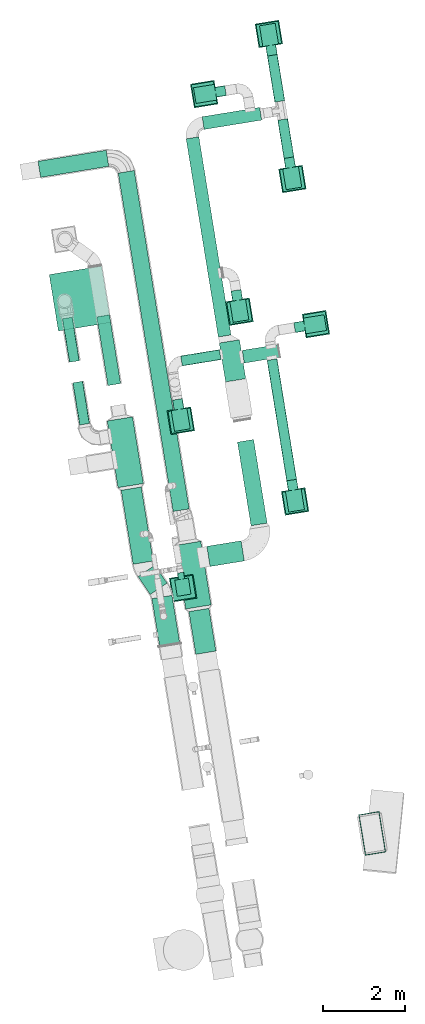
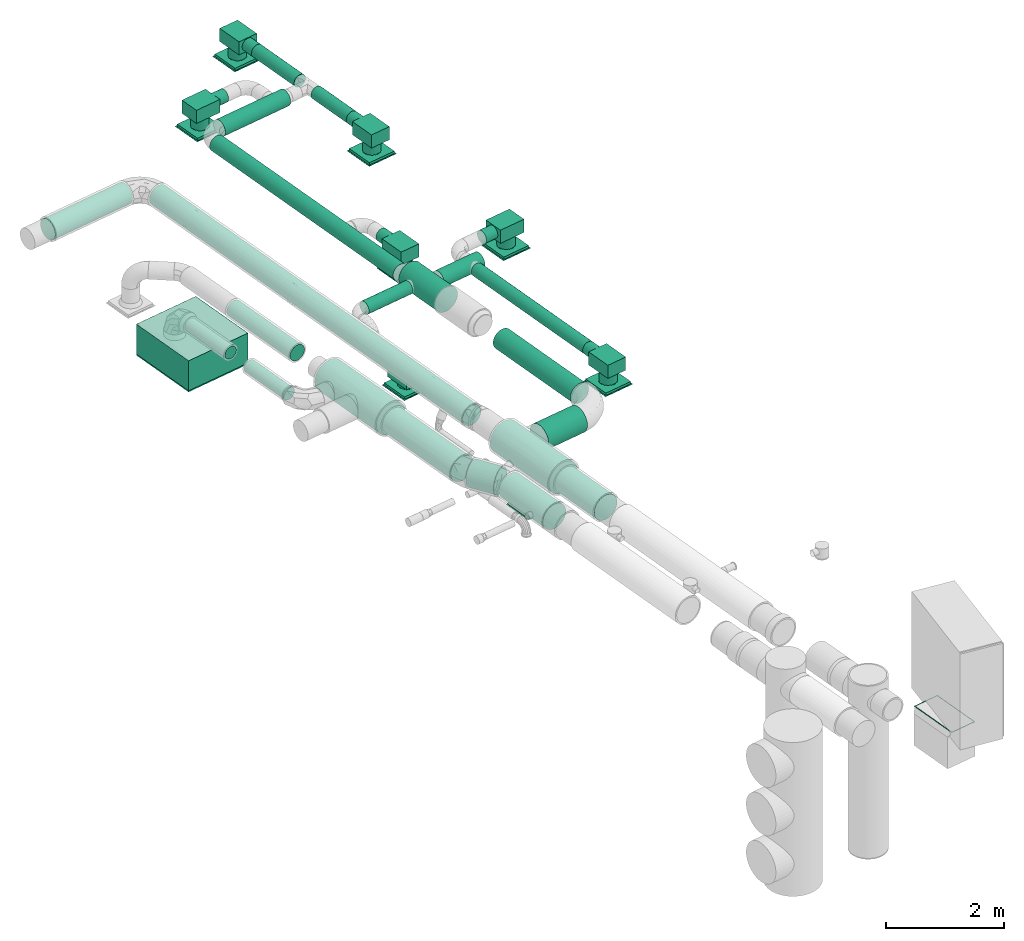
# One storey, part 13 of 39: 22 flow segments, 10 flow terminals.
"""IFC2X3 building model written with IfcOpenShell, lengths in millimetres."""

from ifc_helpers import new_model, entity, si_unit, converted_unit, derived_unit, direction, frame, frame_2d, origin, origin_with_axes, origin_2d_with_axis, place, context, subcontext, project, spatial, rectangle, circle, extrude, source, transform, mapped, material, type_object, element, save


model = new_model("IFC2X3")

# Units and contexts
plan_context = context("Plan", 3, precision=1e-05, world=origin_with_axes())
model_context = context("Model", 3, precision=0.01, world=origin(), true_north=direction((6.12323399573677e-17, 1.0)))
body_context = subcontext(model_context, "Body", "Model", "MODEL_VIEW")
ifc_project = project(units=[converted_unit("PLANEANGLEUNIT", "DEGREE", entity("IfcPositiveLengthMeasure", 0.0174532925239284), si_unit("PLANEANGLEUNIT", "RADIAN"), dimensions=[0, 0, 0, 0, 0, 0, 0]), si_unit("AREAUNIT", "SQUARE_METRE"), si_unit("LENGTHUNIT", "METRE", prefix="MILLI"), si_unit("MASSUNIT", "GRAM", prefix="KILO"), si_unit("POWERUNIT", "WATT"), si_unit("PRESSUREUNIT", "PASCAL", prefix="KILO"), si_unit("FORCEUNIT", "NEWTON", prefix="KILO"), si_unit("ELECTRICVOLTAGEUNIT", "VOLT"), si_unit("ELECTRICCURRENTUNIT", "AMPERE"), si_unit("THERMODYNAMICTEMPERATUREUNIT", "DEGREE_CELSIUS"), si_unit("TIMEUNIT", "SECOND"), si_unit("VOLUMEUNIT", "CUBIC_METRE"), derived_unit("LINEARVELOCITYUNIT", [(si_unit("LENGTHUNIT", "METRE"), 1), (si_unit("TIMEUNIT", "SECOND"), -1)]), derived_unit("VOLUMETRICFLOWRATEUNIT", [(si_unit("VOLUMEUNIT", "CUBIC_METRE"), 1), (si_unit("TIMEUNIT", "SECOND"), -1)]), derived_unit("THERMALTRANSMITTANCEUNIT", [(si_unit("POWERUNIT", "WATT"), 1), (si_unit("THERMODYNAMICTEMPERATUREUNIT", "KELVIN"), -1), (si_unit("AREAUNIT", "SQUARE_METRE"), -1)]), derived_unit("SOUNDPRESSUREUNIT", [(si_unit("PRESSUREUNIT", "PASCAL"), 1)])], contexts=[model_context, plan_context])

# Site, building, storey
site_placement = place(None, frame((-0.00071070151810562, 0.00438415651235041, 0.0), z_axis=(0.0, 0.0, 1.0), x_axis=(-0.160236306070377, 0.987078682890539, 0.0)))
site = spatial("IfcSite", under=ifc_project, at=site_placement, Name="Default", CompositionType="ELEMENT")
building_placement = place(site_placement, origin_with_axes())
building = spatial("IfcBuilding", under=site, at=building_placement, CompositionType="ELEMENT")
storey_placement = place(building_placement, frame((0.0, 0.0, 58999.9999999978), z_axis=(0.0, 0.0, 1.0), x_axis=(1.0, 0.0, 0.0)))
storey = spatial("IfcBuildingStorey", under=building, at=storey_placement, Name="Nivå F", CompositionType="ELEMENT", Elevation=58999.9999999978)

# Flow terminals
ifc_material = material(Name="<Unnamed>")
air_terminal_type_1 = type_object("IfcAirTerminalType", Name="TILLUFTSVENTIL -  - ST072T:TILLUFTSVENTIL - ALE-1000-500 - ST072T", PredefinedType="NOTDEFINED", material=ifc_material)
shared_shape_1 = source(origin(), body_context, "Body", "SweptSolid", [
    extrude(rectangle(XDim=0.200000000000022, YDim=4.99999999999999, at=frame_2d((-3.38409855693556e-14, 0.0), x_axis=(1.0, 0.0))), frame((2.50000000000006, 506.0, -256.0), z_axis=(0.0, 0.0, 1.0), x_axis=(0.0, 1.0, 0.0)), (0.0, 0.0, 1.0), 512.0),
    extrude(rectangle(XDim=4.99999999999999, YDim=1012.0, at=frame_2d((4.44089209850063e-16, 0.0), x_axis=(1.0, 0.0))), frame((2.49999999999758, 0.0, 255.9)), (0.0, 0.0, 1.0), 0.199999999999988),
    extrude(rectangle(XDim=0.200000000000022, YDim=4.99999999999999, at=frame_2d((-3.38409855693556e-14, 0.0), x_axis=(1.0, 0.0))), frame((2.49999999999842, -506.0, -256.0), z_axis=(0.0, 0.0, 1.0), x_axis=(0.0, 1.0, 0.0)), (0.0, 0.0, 1.0), 512.0),
    extrude(rectangle(XDim=4.99999999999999, YDim=1012.0, at=frame_2d((-2.22044604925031e-16, 0.0), x_axis=(1.0, 0.0))), frame((2.49999999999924, 0.0, -256.1)), (0.0, 0.0, 1.0), 0.199999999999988),
    extrude(rectangle(XDim=0.2, YDim=18.0, at=frame_2d((5.27355936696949e-16, 0.0), x_axis=(1.0, 0.0))), frame((5.0, 497.0, -256.0)), (0.0, 0.0, 1.0), 18.0),
    extrude(rectangle(XDim=0.2, YDim=18.0, at=frame_2d((5.27355936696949e-16, 0.0), x_axis=(1.0, 0.0))), frame((5.0, 497.0, -238.0)), (0.0, 0.0, 1.0), 476.0),
    extrude(rectangle(XDim=0.2, YDim=18.0, at=frame_2d((5.27355936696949e-16, 0.0), x_axis=(1.0, 0.0))), frame((5.0, 497.0, 238.0)), (0.0, 0.0, 1.0), 18.0),
    extrude(rectangle(XDim=0.2, YDim=975.999999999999, at=frame_2d((5.27355936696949e-16, 0.0), x_axis=(1.0, 0.0))), frame((5.0, 0.0, 238.0)), (0.0, 0.0, 1.0), 18.0),
    extrude(rectangle(XDim=0.2, YDim=18.0, at=frame_2d((5.27355936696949e-16, 0.0), x_axis=(1.0, 0.0))), frame((5.0, -497.0, 238.0)), (0.0, 0.0, 1.0), 18.0),
    extrude(rectangle(XDim=0.2, YDim=18.0, at=frame_2d((5.27355936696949e-16, 0.0), x_axis=(1.0, 0.0))), frame((5.0, -497.0, -238.0)), (0.0, 0.0, 1.0), 476.0),
    extrude(rectangle(XDim=0.2, YDim=18.0, at=frame_2d((5.27355936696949e-16, 0.0), x_axis=(1.0, 0.0))), frame((5.0, -497.0, -256.0)), (0.0, 0.0, 1.0), 18.0),
    extrude(rectangle(XDim=0.2, YDim=975.999999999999, at=frame_2d((5.27355936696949e-16, 0.0), x_axis=(1.0, 0.0))), frame((5.0, 0.0, -256.0)), (0.0, 0.0, 1.0), 18.0),
])
flow_terminal_1_placement = place(storey_placement, frame((765967.619644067, -506652.480498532, 108.078480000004), z_axis=(0.0, 1.0, 0.0), x_axis=(0.0, 0.0, 1.0)))
element("IfcFlowTerminal", 1, at=flow_terminal_1_placement, inside=storey, type_object=air_terminal_type_1, material=ifc_material, Name="TILLUFTSVENTIL -  - ST072T:TILLUFTSVENTIL - ALE-1000-500 - ST072T", ObjectType="TILLUFTSVENTIL -  - ST072T:TILLUFTSVENTIL - ALE-1000-500 - ST072T", context=body_context, shape_type="MappedRepresentation", body=[
    mapped(shared_shape_1, transform((0.0, 0.0, 0.0), scale=1.0)),
])
air_terminal_type_2 = type_object("IfcAirTerminalType", Name="TILLUFTSVENTIL - 2 - ST003T:TILLUFTSVENTIL - Orion-OPUS-R-160+Luna-160-160 - ST003T", PredefinedType="NOTDEFINED", material=ifc_material)
shared_shape_2 = source(origin(), body_context, "Body", "SweptSolid", [
    extrude(circle(Radius=85.0, at=frame_2d((-1.18447497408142e-13, 0.0), x_axis=(1.0, 0.0))), frame((0.0, 0.0, 47.0), z_axis=(0.0, 0.0, 1.0), x_axis=(0.0, 1.0, 0.0)), (0.0, 0.0, 1.0), 4.0),
    extrude(rectangle(XDim=340.0, YDim=400.0, at=origin_2d_with_axis()), frame((-25.0, 0.0, 126.0), z_axis=(0.0, 0.0, 1.0), x_axis=(0.0, 1.0, 0.0)), (0.0, 0.0, 1.0), 182.0),
    extrude(circle(Radius=81.0, at=frame_2d((1.02953858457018e-13, 0.0), x_axis=(1.0, 0.0))), frame((0.0, 0.0, 51.0), z_axis=(0.0, 0.0, 1.0), x_axis=(0.0, 1.0, 0.0)), (0.0, 0.0, 1.0), 75.0),
    extrude(rectangle(XDim=595.0, YDim=595.0, at=origin_2d_with_axis()), frame((0.0, 0.0, -6.0), z_axis=(0.0, 0.0, 1.0), x_axis=(0.0, 1.0, 0.0)), (0.0, 0.0, 1.0), 6.0),
    extrude(rectangle(XDim=545.0, YDim=545.0, at=origin_2d_with_axis()), frame((0.0, 0.0, 0.0), z_axis=(0.0, 0.0, 1.0), x_axis=(0.0, 1.0, 0.0)), (0.0, 0.0, 1.0), 47.0),
    extrude(circle(Radius=80.0, at=frame_2d((-9.39237515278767e-31, -1.35358391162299e-13), x_axis=(1.0, 0.0))), frame((-385.0, 0.0, 217.0), z_axis=(1.0, 0.0, 0.0), x_axis=(0.0, -1.0, 0.0)), (0.0, 0.0, 1.0), 160.0),
])
flow_terminal_2_placement = place(storey_placement, frame((772638.619644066, -503041.01455526, 2400.0), z_axis=(0.0, 0.0, 1.0), x_axis=(-1.0, 0.0, 0.0)))
element("IfcFlowTerminal", 2, at=flow_terminal_2_placement, inside=storey, type_object=air_terminal_type_2, material=ifc_material, Name="TILLUFTSVENTIL - 2 - ST003T:TILLUFTSVENTIL - Orion-OPUS-R-160+Luna-160-160 - ST003T", ObjectType="TILLUFTSVENTIL - 2 - ST003T:TILLUFTSVENTIL - Orion-OPUS-R-160+Luna-160-160 - ST003T", context=body_context, shape_type="MappedRepresentation", body=[
    mapped(shared_shape_2, transform((0.0, 0.0, 0.0), scale=1.0)),
])
air_terminal_type_3 = type_object("IfcAirTerminalType", Name="TILLUFTSVENTIL - 2 - ST003T:TILLUFTSVENTIL - Orion-OPUS-R-315+Luna-250-315 - ST003T", PredefinedType="NOTDEFINED", material=ifc_material)
shared_shape_3 = source(origin(), body_context, "Body", "SweptSolid", [
    extrude(circle(Radius=162.5, at=frame_2d((8.03759717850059e-13, 0.0), x_axis=(1.0, 0.0))), frame((0.0, 0.0, 47.0), z_axis=(0.0, 0.0, 1.0), x_axis=(0.0, -1.0, 0.0)), (0.0, 0.0, 1.0), 4.0),
    extrude(rectangle(XDim=515.0, YDim=390.0, at=origin_2d_with_axis()), frame((-24.5, 0.0, 137.0), z_axis=(0.0, 0.0, 1.0), x_axis=(-1.0, 0.0, 0.0)), (0.0, 0.0, 1.0), 272.0),
    extrude(circle(Radius=158.5, at=frame_2d((2.91257884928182e-13, 0.0), x_axis=(1.0, 0.0))), frame((0.0, 0.0, 51.0), z_axis=(0.0, 0.0, 1.0), x_axis=(0.0, -1.0, 0.0)), (0.0, 0.0, 1.0), 86.0),
    extrude(rectangle(XDim=595.0, YDim=595.0, at=origin_2d_with_axis()), frame((0.0, 0.0, -6.0), z_axis=(0.0, 0.0, 1.0), x_axis=(-1.0, 0.0, 0.0)), (0.0, 0.0, 1.0), 6.0),
    extrude(rectangle(XDim=545.0, YDim=545.0, at=origin_2d_with_axis()), frame((0.0, 0.0, 0.0), z_axis=(0.0, 0.0, 1.0), x_axis=(-1.0, 0.0, 0.0)), (0.0, 0.0, 1.0), 47.0),
    extrude(circle(Radius=125.0, at=frame_2d((-1.28425771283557e-16, 3.72235575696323e-13), x_axis=(1.0, 0.0))), frame((-530.0, 0.0, 273.0), z_axis=(1.0, 0.0, 0.0), x_axis=(0.0, 1.0, 0.0)), (0.0, 0.0, 1.0), 248.0),
])
flow_terminal_3_placement = place(storey_placement, frame((776695.119644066, -503645.980498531, 2400.0), z_axis=(0.0, 0.0, 1.0), x_axis=(-1.0, 0.0, 0.0)))
element("IfcFlowTerminal", 3, at=flow_terminal_3_placement, inside=storey, type_object=air_terminal_type_3, material=ifc_material, Name="TILLUFTSVENTIL - 2 - ST003T:TILLUFTSVENTIL - Orion-OPUS-R-315+Luna-250-315 - ST003T", ObjectType="TILLUFTSVENTIL - 2 - ST003T:TILLUFTSVENTIL - Orion-OPUS-R-315+Luna-250-315 - ST003T", context=body_context, shape_type="MappedRepresentation", body=[
    mapped(shared_shape_3, transform((0.0, 0.0, 0.0), scale=1.0)),
])
air_terminal_type_4 = type_object("IfcAirTerminalType", Name="TILLUFTSVENTIL - 2 - ST003T:TILLUFTSVENTIL - Orion-OPUS-R-315+Luna-250-315 - ST003T", PredefinedType="NOTDEFINED", material=ifc_material)
shared_shape_4 = source(origin(), body_context, "Body", "SweptSolid", [
    extrude(circle(Radius=162.5, at=frame_2d((-2.26443745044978e-13, 0.0), x_axis=(1.0, 0.0))), frame((0.0, 0.0, 47.0), z_axis=(0.0, 0.0, 1.0), x_axis=(0.0, 1.0, 0.0)), (0.0, 0.0, 1.0), 4.0),
    extrude(rectangle(XDim=390.0, YDim=515.0, at=origin_2d_with_axis()), frame((-24.5, 0.0, 294.0), z_axis=(0.0, 0.0, 1.0), x_axis=(0.0, 1.0, 0.0)), (0.0, 0.0, 1.0), 272.0),
    extrude(circle(Radius=158.5, at=frame_2d((2.01459093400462e-13, 0.0), x_axis=(1.0, 0.0))), frame((0.0, 0.0, 51.0), z_axis=(0.0, 0.0, 1.0), x_axis=(0.0, 1.0, 0.0)), (0.0, 0.0, 1.0), 243.0),
    extrude(rectangle(XDim=595.0, YDim=595.0, at=origin_2d_with_axis()), frame((0.0, 0.0, -6.0), z_axis=(0.0, 0.0, 1.0), x_axis=(0.0, 1.0, 0.0)), (0.0, 0.0, 1.0), 6.0),
    extrude(rectangle(XDim=545.0, YDim=545.0, at=origin_2d_with_axis()), frame((0.0, 0.0, 0.0), z_axis=(0.0, 0.0, 1.0), x_axis=(0.0, 1.0, 0.0)), (0.0, 0.0, 1.0), 47.0),
    extrude(circle(Radius=125.0, at=frame_2d((-2.25417003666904e-29, -3.38395977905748e-13), x_axis=(1.0, 0.0))), frame((-530.0, 0.0, 430.0), z_axis=(1.0, 0.0, 0.0), x_axis=(0.0, -1.0, 0.0)), (0.0, 0.0, 1.0), 248.0),
])
for number, where, z_axis, x_axis in (
    (4, (774295.119644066, -506090.980498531, 2700.0), (0.0, 0.0, 1.0), (-1.0, 0.0, 0.0)),
    (5, (782100.119644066, -507290.980498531, 2700.0), (0.0, 0.0, 1.0), (-1.0, 0.0, 0.0)),
    (6, (785700.119644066, -507290.980498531, 2700.0), (0.0, 0.0, 1.0), (1.0, 0.0, 0.0)),
):
    element("IfcFlowTerminal", number, at=place(storey_placement, frame(where, z_axis=z_axis, x_axis=x_axis)), inside=storey, type_object=air_terminal_type_4, material=ifc_material, Name="TILLUFTSVENTIL - 2 - ST003T:TILLUFTSVENTIL - Orion-OPUS-R-315+Luna-250-315 - ST003T", ObjectType="TILLUFTSVENTIL - 2 - ST003T:TILLUFTSVENTIL - Orion-OPUS-R-315+Luna-250-315 - ST003T", context=body_context, shape_type="MappedRepresentation", body=[
        mapped(shared_shape_4, transform((0.0, 0.0, 0.0), scale=1.0)),
    ])
air_terminal_type_5 = type_object("IfcAirTerminalType", Name="TILLUFTSVENTIL - 2 - ST003T:TILLUFTSVENTIL - Orion-OPUS-R-315+Luna-250-315 - ST003T", PredefinedType="NOTDEFINED", material=ifc_material)
shared_shape_5 = source(origin(), body_context, "Body", "SweptSolid", [
    extrude(circle(Radius=162.5, at=frame_2d((8.03759717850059e-13, 0.0), x_axis=(1.0, 0.0))), frame((0.0, 0.0, 47.0), z_axis=(0.0, 0.0, 1.0), x_axis=(0.0, -1.0, 0.0)), (0.0, 0.0, 1.0), 4.0),
    extrude(rectangle(XDim=515.0, YDim=390.0, at=origin_2d_with_axis()), frame((-24.5, 0.0, 294.0), z_axis=(0.0, 0.0, 1.0), x_axis=(-1.0, 0.0, 0.0)), (0.0, 0.0, 1.0), 272.0),
    extrude(circle(Radius=158.5, at=frame_2d((2.91257884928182e-13, 0.0), x_axis=(1.0, 0.0))), frame((0.0, 0.0, 51.0), z_axis=(0.0, 0.0, 1.0), x_axis=(0.0, -1.0, 0.0)), (0.0, 0.0, 1.0), 243.0),
    extrude(rectangle(XDim=595.0, YDim=595.0, at=origin_2d_with_axis()), frame((0.0, 0.0, -6.0), z_axis=(0.0, 0.0, 1.0), x_axis=(-1.0, 0.0, 0.0)), (0.0, 0.0, 1.0), 6.0),
    extrude(rectangle(XDim=545.0, YDim=545.0, at=origin_2d_with_axis()), frame((0.0, 0.0, 0.0), z_axis=(0.0, 0.0, 1.0), x_axis=(-1.0, 0.0, 0.0)), (0.0, 0.0, 1.0), 47.0),
    extrude(circle(Radius=125.0, at=frame_2d((5.91561833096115e-15, 3.38395977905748e-13), x_axis=(1.0, 0.0))), frame((-530.0, 0.0, 430.0), z_axis=(1.0, 0.0, 0.0), x_axis=(0.0, 1.0, 0.0)), (0.0, 0.0, 1.0), 248.0),
])
for number, where, z_axis, x_axis in (
    (7, (779100.119644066, -505490.980498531, 2700.0), (0.0, 0.0, 1.0), (-1.0, 0.0, 0.0)),
    (8, (784500.119644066, -505490.980498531, 2700.0), (0.0, 0.0, 1.0), (0.0, 1.0, 0.0)),
    (9, (778500.119644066, -507290.980498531, 2700.0), (0.0, 0.0, 1.0), (0.0, -1.0, 0.0)),
):
    element("IfcFlowTerminal", number, at=place(storey_placement, frame(where, z_axis=z_axis, x_axis=x_axis)), inside=storey, type_object=air_terminal_type_5, material=ifc_material, Name="TILLUFTSVENTIL - 2 - ST003T:TILLUFTSVENTIL - Orion-OPUS-R-315+Luna-250-315 - ST003T", ObjectType="TILLUFTSVENTIL - 2 - ST003T:TILLUFTSVENTIL - Orion-OPUS-R-315+Luna-250-315 - ST003T", context=body_context, shape_type="MappedRepresentation", body=[
        mapped(shared_shape_5, transform((0.0, 0.0, 0.0), scale=1.0)),
    ])
air_terminal_type_6 = type_object("IfcAirTerminalType", Name="KJØKKENHETTE - FA:KJØKKENHETTE - Kjøkkenhette 1400x1300 - FA003T", PredefinedType="NOTDEFINED", material=ifc_material)
shared_shape_6 = source(origin(), body_context, "Body", "SweptSolid", [
    extrude(rectangle(XDim=10.0, YDim=10.0, at=frame_2d((8.88178419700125e-16, 0.0), x_axis=(1.0, 0.0))), frame((0.0, 0.0, 0.0), z_axis=(0.0, 0.0, 1.0), x_axis=(-1.0, 0.0, 0.0)), (0.0, 0.0, 1.0), 25.0),
    extrude(rectangle(XDim=1400.0, YDim=1300.0, at=origin_2d_with_axis()), frame((0.0, 0.0, 0.0), z_axis=(0.0, 0.0, 1.0), x_axis=(0.0, 1.0, 0.0)), (0.0, 0.0, 1.0), 25.0),
])
flow_terminal_4_placement = place(storey_placement, frame((780044.619644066, -501687.480498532, 2000.0), z_axis=(0.0, 0.0, 1.0), x_axis=(0.0, -1.0, 0.0)))
element("IfcFlowTerminal", 10, at=flow_terminal_4_placement, inside=storey, type_object=air_terminal_type_6, material=ifc_material, Name="KJØKKENHETTE - FA:KJØKKENHETTE - Kjøkkenhette 1400x1300 - FA003T", ObjectType="KJØKKENHETTE - FA:KJØKKENHETTE - Kjøkkenhette 1400x1300 - FA003T", context=body_context, shape_type="MappedRepresentation", body=[
    mapped(shared_shape_6, transform((0.0, 0.0, 0.0), scale=1.0)),
])

# Flow segments
duct_segment_type_1 = type_object("IfcDuctSegmentType", Name="Round Duct:KK001T - Spiro kanaler, Forsinket stål", PredefinedType="NOTDEFINED")
flow_segment_1_placement = place(storey_placement, origin_with_axes())
element("IfcFlowSegment", 11, at=flow_segment_1_placement, inside=storey, type_object=duct_segment_type_1, Name="Round Duct:KK001T - Spiro kanaler, Forsinket stål", ObjectType="Round Duct:KK001T - Spiro kanaler, Forsinket stål", context=body_context, shape_type="SweptSolid", body=[
    extrude(circle(Radius=315.0, at=origin_2d_with_axis()), frame((772124.369644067, -503340.008615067, 3129.99954147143), z_axis=(1.0, 0.0, 0.0), x_axis=(0.0, -1.0, 0.0)), (0.0, 0.0, 1.0), 1579.24083049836),
])
flow_segment_2_placement = place(storey_placement, origin_with_axes())
element("IfcFlowSegment", 12, at=flow_segment_2_placement, inside=storey, type_object=duct_segment_type_1, Name="Round Duct:KK001T - Spiro kanaler, Forsinket stål", ObjectType="Round Duct:KK001T - Spiro kanaler, Forsinket stål", context=body_context, shape_type="SweptSolid", body=[
    extrude(circle(Radius=250.0, at=origin_2d_with_axis()), frame((771329.369644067, -502496.834705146, 3130.0), z_axis=(1.0, 0.0, 0.0), x_axis=(0.0, -1.0, 0.0)), (0.0, 0.0, 1.0), 1179.50227023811),
])
flow_segment_3_placement = place(storey_placement, origin_with_axes())
element("IfcFlowSegment", 13, at=flow_segment_3_placement, inside=storey, type_object=duct_segment_type_1, Name="Round Duct:KK001T - Spiro kanaler, Forsinket stål", ObjectType="Round Duct:KK001T - Spiro kanaler, Forsinket stål", context=body_context, shape_type="SweptSolid", body=[
    extrude(circle(Radius=250.0, at=origin_2d_with_axis()), frame((772720.181045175, -502449.988598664, 3130.0), z_axis=(0.906307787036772, 0.422618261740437, 0.0), x_axis=(0.422618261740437, -0.906307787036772, 0.0)), (0.0, 0.0, 1.0), 530.757440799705),
])
flow_segment_4_placement = place(storey_placement, origin_with_axes())
element("IfcFlowSegment", 14, at=flow_segment_4_placement, inside=storey, type_object=duct_segment_type_1, Name="Round Duct:KK001T - Spiro kanaler, Forsinket stål", ObjectType="Round Duct:KK001T - Spiro kanaler, Forsinket stål", context=body_context, shape_type="SweptSolid", body=[
    extrude(circle(Radius=315.0, at=origin_2d_with_axis()), frame((775323.610474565, -502178.834705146, 3130.03415297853), z_axis=(1.0, 0.0, 0.0), x_axis=(0.0, -1.0, 0.0)), (0.0, 0.0, 1.0), 1654.99999999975),
])
flow_segment_5_placement = place(storey_placement, origin_with_axes())
element("IfcFlowSegment", 15, at=flow_segment_5_placement, inside=storey, type_object=duct_segment_type_1, Name="Round Duct:KK001T - Spiro kanaler, Forsinket stål", ObjectType="Round Duct:KK001T - Spiro kanaler, Forsinket stål", context=body_context, shape_type="SweptSolid", body=[
    extrude(circle(Radius=157.5, at=origin_2d_with_axis()), frame((777830.476763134, -502178.834705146, 3130.03415297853), z_axis=(1.0, 0.0, 0.0), x_axis=(0.0, -1.0, 0.0)), (0.0, 0.0, 1.0), 1701.86628856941),
])
flow_segment_6_placement = place(storey_placement, origin_with_axes())
element("IfcFlowSegment", 16, at=flow_segment_6_placement, inside=storey, type_object=duct_segment_type_1, Name="Round Duct:KK001T - Spiro kanaler, Forsinket stål", ObjectType="Round Duct:KK001T - Spiro kanaler, Forsinket stål", context=body_context, shape_type="SweptSolid", body=[
    extrude(circle(Radius=125.0, at=origin_2d_with_axis()), frame((776987.222116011, -501304.709617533, 3130.0), z_axis=(1.0, 0.0, 0.0), x_axis=(0.0, -1.0, 0.0)), (0.0, 0.0, 1.0), 1047.89752805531),
])
flow_segment_7_placement = place(storey_placement, origin_with_axes())
element("IfcFlowSegment", 17, at=flow_segment_7_placement, inside=storey, type_object=duct_segment_type_1, Name="Round Duct:KK001T - Spiro kanaler, Forsinket stål", ObjectType="Round Duct:KK001T - Spiro kanaler, Forsinket stål", context=body_context, shape_type="SweptSolid", body=[
    extrude(circle(Radius=250.0, at=origin_2d_with_axis()), frame((773412.51977767, -502178.834705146, 3130.03415297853), z_axis=(1.0, 0.0, 0.0), x_axis=(0.0, -1.0, 0.0)), (0.0, 0.0, 1.0), 1836.09069689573),
])
flow_segment_8_placement = place(storey_placement, origin_with_axes())
element("IfcFlowSegment", 18, at=flow_segment_8_placement, inside=storey, type_object=duct_segment_type_1, Name="Round Duct:KK001T - Spiro kanaler, Forsinket stål", ObjectType="Round Duct:KK001T - Spiro kanaler, Forsinket stål", context=body_context, shape_type="SweptSolid", body=[
    extrude(circle(Radius=250.0, at=origin_2d_with_axis()), frame((770989.369644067, -503340.008615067, 3129.99954147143), z_axis=(1.0, 0.0, 0.0), x_axis=(0.0, -1.0, 0.0)), (0.0, 0.0, 1.0), 1059.99999999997),
])
flow_segment_9_placement = place(storey_placement, origin_with_axes())
element("IfcFlowSegment", 19, at=flow_segment_9_placement, inside=storey, type_object=duct_segment_type_1, Name="Round Duct:KK001T - Spiro kanaler, Forsinket stål", ObjectType="Round Duct:KK001T - Spiro kanaler, Forsinket stål", context=body_context, shape_type="SweptSolid", body=[
    extrude(circle(Radius=200.0, at=frame_2d((0.0, -8.66293703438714e-12), x_axis=(1.0, 0.0))), frame((783327.222116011, -502902.362901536, 3130.0), z_axis=(0.0, 1.0, 0.0), x_axis=(1.0, 0.0, 0.0)), (0.0, 0.0, 1.0), 1691.65328400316),
])
flow_segment_10_placement = place(storey_placement, origin_with_axes())
element("IfcFlowSegment", 20, at=flow_segment_10_placement, inside=storey, type_object=duct_segment_type_1, Name="Round Duct:KK001T - Spiro kanaler, Forsinket stål", ObjectType="Round Duct:KK001T - Spiro kanaler, Forsinket stål", context=body_context, shape_type="SweptSolid", body=[
    extrude(circle(Radius=200.0, at=frame_2d((6.93034962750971e-11, 0.0), x_axis=(1.0, 0.0))), frame((774531.081764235, -503302.362901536, 3130.0), z_axis=(1.0, 0.0, 0.0), x_axis=(0.0, 1.0, 0.0)), (0.0, 0.0, 1.0), 8396.14035177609),
])
flow_segment_11_placement = place(storey_placement, origin_with_axes())
element("IfcFlowSegment", 21, at=flow_segment_11_placement, inside=storey, type_object=duct_segment_type_1, Name="Round Duct:KK001T - Spiro kanaler, Forsinket stål", ObjectType="Round Duct:KK001T - Spiro kanaler, Forsinket stål", context=body_context, shape_type="SweptSolid", body=[
    extrude(circle(Radius=250.0, at=origin_2d_with_axis()), frame((773306.186969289, -504630.008615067, 3130.0), z_axis=(0.0, 1.0, 0.0), x_axis=(-1.0, 0.0, 0.0)), (0.0, 0.0, 1.0), 850.000000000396),
])
flow_segment_12_placement = place(storey_placement, origin_with_axes())
element("IfcFlowSegment", 22, at=flow_segment_12_placement, inside=storey, type_object=duct_segment_type_1, Name="Round Duct:KK001T - Spiro kanaler, Forsinket stål", ObjectType="Round Duct:KK001T - Spiro kanaler, Forsinket stål", context=body_context, shape_type="SweptSolid", body=[
    extrude(circle(Radius=125.0, at=origin_2d_with_axis()), frame((778138.293172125, -504855.008615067, 3130.0), z_axis=(0.0, 1.0, 0.0), x_axis=(1.0, 0.0, 0.0)), (0.0, 0.0, 1.0), 959.028116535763),
])
flow_segment_13_placement = place(storey_placement, origin_with_axes())
element("IfcFlowSegment", 23, at=flow_segment_13_placement, inside=storey, type_object=duct_segment_type_1, Name="Round Duct:KK001T - Spiro kanaler, Forsinket stål", ObjectType="Round Duct:KK001T - Spiro kanaler, Forsinket stål", context=body_context, shape_type="SweptSolid", body=[
    extrude(circle(Radius=200.0, at=origin_2d_with_axis()), frame((773881.186969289, -505130.008615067, 3130.0), z_axis=(1.0, 0.0, 0.0), x_axis=(0.0, -1.0, 0.0)), (0.0, 0.0, 1.0), 2073.93267477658),
])
flow_segment_14_placement = place(storey_placement, origin_with_axes())
element("IfcFlowSegment", 24, at=flow_segment_14_placement, inside=storey, type_object=duct_segment_type_1, Name="Round Duct:KK001T - Spiro kanaler, Forsinket stål", ObjectType="Round Duct:KK001T - Spiro kanaler, Forsinket stål", context=body_context, shape_type="SweptSolid", body=[
    extrude(circle(Radius=157.5, at=frame_2d((0.0, -8.66293703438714e-12), x_axis=(1.0, 0.0))), frame((777997.619644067, -506290.980498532, 3130.0), z_axis=(0.0, 1.0, 0.0), x_axis=(-1.0, 0.0, 0.0)), (0.0, 0.0, 1.0), 885.971883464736),
])
flow_segment_15_placement = place(storey_placement, origin_with_axes())
element("IfcFlowSegment", 25, at=flow_segment_15_placement, inside=storey, type_object=duct_segment_type_1, Name="Round Duct:KK001T - Spiro kanaler, Forsinket stål", ObjectType="Round Duct:KK001T - Spiro kanaler, Forsinket stål", context=body_context, shape_type="SweptSolid", body=[
    extrude(circle(Radius=250.0, at=origin_2d_with_axis()), frame((777457.619644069, -505130.008615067, 3130.0), z_axis=(1.0, 0.0, 0.0), x_axis=(0.0, 1.0, 0.0)), (0.0, 0.0, 1.0), 965.000000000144),
])
flow_segment_16_placement = place(storey_placement, origin_with_axes())
element("IfcFlowSegment", 26, at=flow_segment_16_placement, inside=storey, type_object=duct_segment_type_1, Name="Round Duct:KK001T - Spiro kanaler, Forsinket stål", ObjectType="Round Duct:KK001T - Spiro kanaler, Forsinket stål", context=body_context, shape_type="SweptSolid", body=[
    extrude(circle(Radius=125.0, at=frame_2d((6.93034962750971e-11, 0.0), x_axis=(1.0, 0.0))), frame((774825.119644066, -506090.980498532, 3130.0), z_axis=(1.0, 0.0, 0.0), x_axis=(0.0, -1.0, 0.0)), (0.0, 0.0, 1.0), 2990.00000000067),
])
flow_segment_17_placement = place(storey_placement, origin_with_axes())
element("IfcFlowSegment", 27, at=flow_segment_17_placement, inside=storey, type_object=duct_segment_type_1, Name="Round Duct:KK001T - Spiro kanaler, Forsinket stål", ObjectType="Round Duct:KK001T - Spiro kanaler, Forsinket stål", context=body_context, shape_type="SweptSolid", body=[
    extrude(circle(Radius=157.5, at=frame_2d((0.0, -8.66293703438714e-12), x_axis=(1.0, 0.0))), frame((783802.619644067, -506780.008615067, 3130.0), z_axis=(0.0, 1.0, 0.0), x_axis=(-1.0, 0.0, 0.0)), (0.0, 0.0, 1.0), 1427.50000000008),
])
flow_segment_18_placement = place(storey_placement, origin_with_axes())
element("IfcFlowSegment", 28, at=flow_segment_18_placement, inside=storey, type_object=duct_segment_type_1, Name="Round Duct:KK001T - Spiro kanaler, Forsinket stål", ObjectType="Round Duct:KK001T - Spiro kanaler, Forsinket stål", context=body_context, shape_type="SweptSolid", body=[
    extrude(circle(Radius=125.0, at=frame_2d((6.93034962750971e-11, 0.0), x_axis=(1.0, 0.0))), frame((782630.119644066, -507290.980498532, 3130.0), z_axis=(1.0, 0.0, 0.0), x_axis=(0.0, -1.0, 0.0)), (0.0, 0.0, 1.0), 947.500000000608),
])
flow_segment_19_placement = place(storey_placement, origin_with_axes())
element("IfcFlowSegment", 29, at=flow_segment_19_placement, inside=storey, type_object=duct_segment_type_1, Name="Round Duct:KK001T - Spiro kanaler, Forsinket stål", ObjectType="Round Duct:KK001T - Spiro kanaler, Forsinket stål", context=body_context, shape_type="SweptSolid", body=[
    extrude(circle(Radius=125.0, at=frame_2d((6.93034962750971e-11, 0.0), x_axis=(1.0, 0.0))), frame((784027.619644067, -507290.980498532, 3130.0), z_axis=(1.0, 0.0, 0.0), x_axis=(0.0, -1.0, 0.0)), (0.0, 0.0, 1.0), 1142.49999999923),
])
flow_segment_20_placement = place(storey_placement, origin_with_axes())
element("IfcFlowSegment", 30, at=flow_segment_20_placement, inside=storey, type_object=duct_segment_type_1, Name="Round Duct:KK001T - Spiro kanaler, Forsinket stål", ObjectType="Round Duct:KK001T - Spiro kanaler, Forsinket stål", context=body_context, shape_type="SweptSolid", body=[
    extrude(circle(Radius=157.5, at=frame_2d((0.0, -8.66293703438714e-12), x_axis=(1.0, 0.0))), frame((778572.619644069, -505037.508615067, 3130.0), z_axis=(1.0, 0.0, 0.0), x_axis=(0.0, 1.0, 0.0)), (0.0, 0.0, 1.0), 4914.99999999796),
])
flow_segment_21_placement = place(storey_placement, origin_with_axes())
element("IfcFlowSegment", 31, at=flow_segment_21_placement, inside=storey, type_object=duct_segment_type_1, Name="Round Duct:KK001T - Spiro kanaler, Forsinket stål", ObjectType="Round Duct:KK001T - Spiro kanaler, Forsinket stål", context=body_context, shape_type="SweptSolid", body=[
    extrude(circle(Radius=125.0, at=origin_2d_with_axis()), frame((778545.119644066, -501304.709617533, 3130.0), z_axis=(1.0, 0.0, 0.0), x_axis=(0.0, 1.0, 0.0)), (0.0, 0.0, 1.0), 1077.49999999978),
])
duct_segment_type_2 = type_object("IfcDuctSegmentType", Name="Rectangular Duct:KK002T - Rektangulære, Forsinket stål", PredefinedType="NOTDEFINED")
flow_segment_22_placement = place(storey_placement, origin_with_axes())
element("IfcFlowSegment", 32, at=flow_segment_22_placement, inside=storey, type_object=duct_segment_type_2, Name="Rectangular Duct:KK002T - Rektangulære, Forsinket stål", ObjectType="Rectangular Duct:KK002T - Rektangulære, Forsinket stål", context=body_context, shape_type="SweptSolid", body=[
    extrude(rectangle(XDim=1300.00000000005, YDim=1400.0000000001, at=origin_2d_with_axis()), frame((780044.619644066, -501687.480498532, 2025.0), z_axis=(0.0, 0.0, 1.0), x_axis=(0.0, 1.0, 0.0)), (0.0, 0.0, 1.0), 620.000000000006),
])

save(model, "model.ifc")
